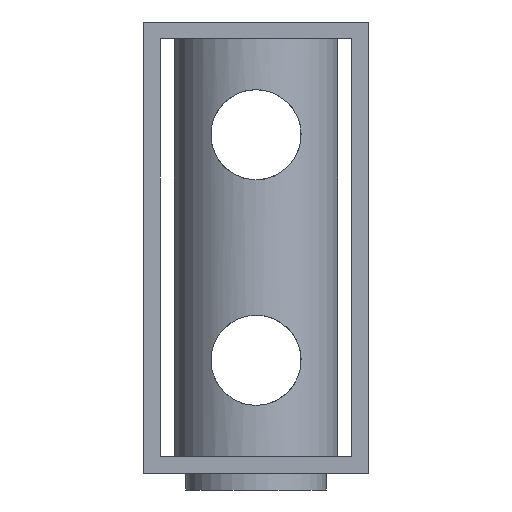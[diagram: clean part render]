
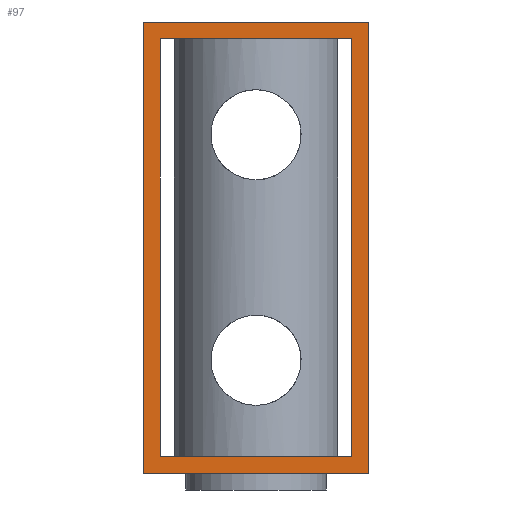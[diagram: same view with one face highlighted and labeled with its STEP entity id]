
A CAD part, front view. The second image highlights one B-rep face of the part: STEP entity #97.
In plain terms, the highlighted planar face has unit normal (0, -1, 0).
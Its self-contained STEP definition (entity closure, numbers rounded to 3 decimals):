
#97 = ADVANCED_FACE( '', ( #244, #245 ), #246, .F. );
#244 = FACE_BOUND( '', #413, .T. );
#245 = FACE_OUTER_BOUND( '', #414, .T. );
#246 = PLANE( '', #415 );
#413 = EDGE_LOOP( '', ( #628, #629, #630, #631 ) );
#414 = EDGE_LOOP( '', ( #632, #633, #634, #635 ) );
#415 = AXIS2_PLACEMENT_3D( '', #636, #637, #638 );
#628 = ORIENTED_EDGE( '', *, *, #809, .T. );
#629 = ORIENTED_EDGE( '', *, *, #782, .T. );
#630 = ORIENTED_EDGE( '', *, *, #810, .T. );
#631 = ORIENTED_EDGE( '', *, *, #789, .T. );
#632 = ORIENTED_EDGE( '', *, *, #811, .F. );
#633 = ORIENTED_EDGE( '', *, *, #774, .F. );
#634 = ORIENTED_EDGE( '', *, *, #766, .F. );
#635 = ORIENTED_EDGE( '', *, *, #812, .F. );
#636 = CARTESIAN_POINT( '', ( 0., -20., 0. ) );
#637 = DIRECTION( '', ( 0., 1., 0. ) );
#638 = DIRECTION( '', ( 0., 0., 1. ) );
#766 = EDGE_CURVE( '', #886, #887, #888, .T. );
#774 = EDGE_CURVE( '', #887, #900, #901, .T. );
#782 = EDGE_CURVE( '', #914, #915, #916, .T. );
#789 = EDGE_CURVE( '', #927, #928, #929, .T. );
#809 = EDGE_CURVE( '', #928, #914, #960, .T. );
#810 = EDGE_CURVE( '', #915, #927, #961, .T. );
#811 = EDGE_CURVE( '', #900, #962, #963, .T. );
#812 = EDGE_CURVE( '', #962, #886, #964, .T. );
#886 = VERTEX_POINT( '', #1181 );
#887 = VERTEX_POINT( '', #1182 );
#888 = LINE( '', #1183, #1184 );
#900 = VERTEX_POINT( '', #1199 );
#901 = LINE( '', #1200, #1201 );
#914 = VERTEX_POINT( '', #1216 );
#915 = VERTEX_POINT( '', #1217 );
#916 = LINE( '', #1218, #1219 );
#927 = VERTEX_POINT( '', #1233 );
#928 = VERTEX_POINT( '', #1234 );
#929 = LINE( '', #1235, #1236 );
#960 = LINE( '', #1684, #1685 );
#961 = LINE( '', #1686, #1687 );
#962 = VERTEX_POINT( '', #1688 );
#963 = LINE( '', #1689, #1690 );
#964 = LINE( '', #1691, #1692 );
#1181 = CARTESIAN_POINT( '', ( 10., -20., 30. ) );
#1182 = CARTESIAN_POINT( '', ( 10., -20., -10. ) );
#1183 = CARTESIAN_POINT( '', ( 10., -20., 30. ) );
#1184 = VECTOR( '', #1781, 1000. );
#1199 = CARTESIAN_POINT( '', ( -10., -20., -10. ) );
#1200 = CARTESIAN_POINT( '', ( 10., -20., -10. ) );
#1201 = VECTOR( '', #1791, 1000. );
#1216 = CARTESIAN_POINT( '', ( -8.5, -20., 28.5 ) );
#1217 = CARTESIAN_POINT( '', ( 8.5, -20., 28.5 ) );
#1218 = CARTESIAN_POINT( '', ( -8.5, -20., 28.5 ) );
#1219 = VECTOR( '', #1806, 1000. );
#1233 = CARTESIAN_POINT( '', ( 8.5, -20., -8.5 ) );
#1234 = CARTESIAN_POINT( '', ( -8.5, -20., -8.5 ) );
#1235 = CARTESIAN_POINT( '', ( 8.5, -20., -8.5 ) );
#1236 = VECTOR( '', #1816, 1000. );
#1684 = CARTESIAN_POINT( '', ( -8.5, -20., -8.5 ) );
#1685 = VECTOR( '', #1829, 1000. );
#1686 = CARTESIAN_POINT( '', ( 8.5, -20., 28.5 ) );
#1687 = VECTOR( '', #1830, 1000. );
#1688 = CARTESIAN_POINT( '', ( -10., -20., 30. ) );
#1689 = CARTESIAN_POINT( '', ( -10., -20., -10. ) );
#1690 = VECTOR( '', #1831, 1000. );
#1691 = CARTESIAN_POINT( '', ( -10., -20., 30. ) );
#1692 = VECTOR( '', #1832, 1000. );
#1781 = DIRECTION( '', ( 0., 0., -1. ) );
#1791 = DIRECTION( '', ( -1., 0., 0. ) );
#1806 = DIRECTION( '', ( 1., 0., 0. ) );
#1816 = DIRECTION( '', ( -1., 0., 0. ) );
#1829 = DIRECTION( '', ( 0., 0., 1. ) );
#1830 = DIRECTION( '', ( 0., 0., -1. ) );
#1831 = DIRECTION( '', ( 0., 0., 1. ) );
#1832 = DIRECTION( '', ( 1., 0., 0. ) );
